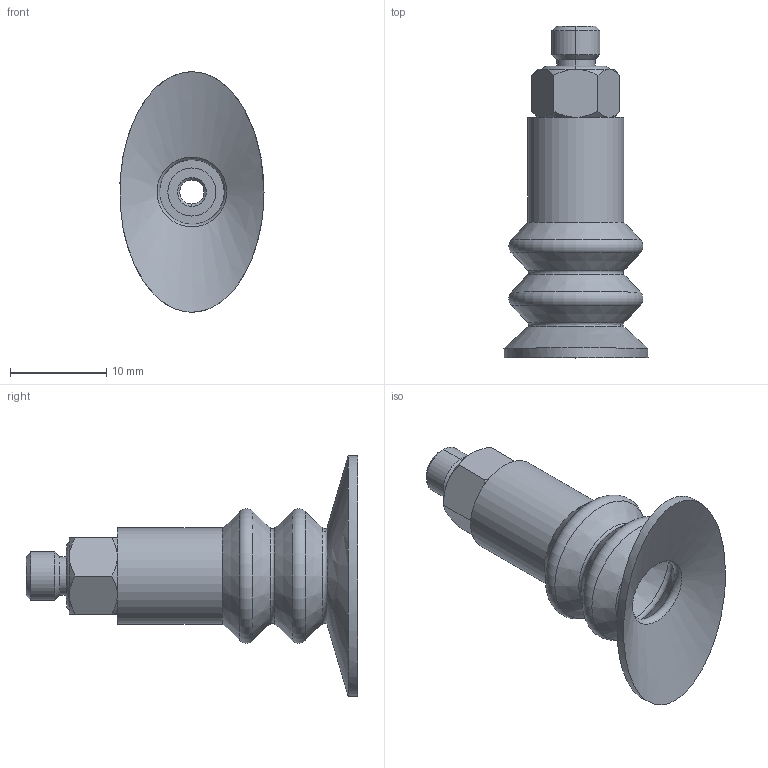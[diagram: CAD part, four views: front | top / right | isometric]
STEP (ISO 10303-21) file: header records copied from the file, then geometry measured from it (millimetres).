
FILE_DESCRIPTION (( 'STEP AP214' ), '1' );
FILE_NAME ('VOCB25X15-1032M.STEP', '2025-01-14T12:48:32', ( '' ), ( '' ), 'SwSTEP 2.0', 'SolidWorks 2018', '' );
FILE_SCHEMA (( 'AUTOMOTIVE_DESIGN' ));
Length unit declared in the file: inch
Products named in the file (4): 130.013.STEP; VOCB25X15.STEP; VOCB25X15-1032M; VOCB25X15-M5.STEP
Assembly tree (3 placements, depth 3):
  VOCB25X15-1032M
    VOCB25X15-M5.STEP
      VOCB25X15.STEP
      130.013.STEP
Bounding box: 14.98 x 34.5 x 25 mm (x, y, z)
Volume: 1850.3 mm3; surface area: 2796.7 mm2
Topology: 3 solids, 3 shells, 78 faces, 169 edges, 100 vertices
Faces by surface type: cone 32, torus 16, plane 15, cylinder 12, bspline 3
Full cylindrical faces by diameter (mm): 5 x1, 10 x1
Entity records: 2770 total; most frequent: CARTESIAN_POINT 1056, DIRECTION 354, ORIENTED_EDGE 278, AXIS2_PLACEMENT_3D 163, EDGE_CURVE 139, EDGE_LOOP 108, VERTEX_POINT 91, FACE_OUTER_BOUND 91
